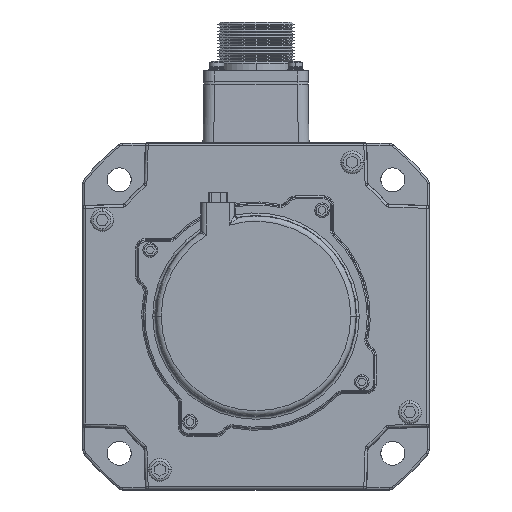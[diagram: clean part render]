
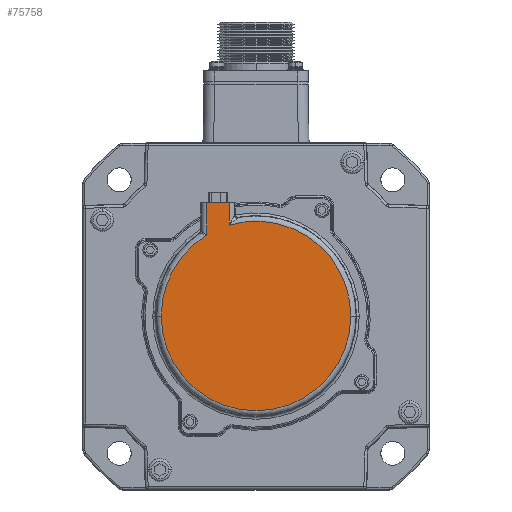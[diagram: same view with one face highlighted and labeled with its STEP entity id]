
A CAD part, top view. The second image highlights one B-rep face of the part: STEP entity #75758.
In plain terms, the highlighted planar face has unit normal (0, 0, 1).
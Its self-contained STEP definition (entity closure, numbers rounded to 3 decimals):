
#2875 = ORIENTED_EDGE ( 'NONE', *, *, #34492, .T. ) ;
#14311 = DIRECTION ( 'NONE',  ( 1., 0., 0. ) ) ;
#15940 = VERTEX_POINT ( 'NONE', #43821 ) ;
#15966 = CARTESIAN_POINT ( 'NONE',  ( -27.4, -13.773, -44.037 ) ) ;
#18535 = CIRCLE ( 'NONE', #61138, 35.528 ) ;
#21578 = FACE_OUTER_BOUND ( 'NONE', #76705, .T. ) ;
#21938 = EDGE_CURVE ( 'NONE', #70046, #30389, #23471, .T. ) ;
#23471 = LINE ( 'NONE', #91979, #123984 ) ;
#29549 = VERTEX_POINT ( 'NONE', #29958 ) ;
#29958 = CARTESIAN_POINT ( 'NONE',  ( 26.656, -56.273, -44.037 ) ) ;
#30389 = VERTEX_POINT ( 'NONE', #36964 ) ;
#31032 = EDGE_CURVE ( 'NONE', #102379, #36932, #60397, .T. ) ;
#32668 = DIRECTION ( 'NONE',  ( 0., 0., 1. ) ) ;
#34492 = EDGE_CURVE ( 'NONE', #29549, #70046, #18535, .T. ) ;
#34733 = DIRECTION ( 'NONE',  ( 0., 0., 1. ) ) ;
#35232 = VECTOR ( 'NONE', #14311, 1000. ) ;
#35277 = DIRECTION ( 'NONE',  ( 0., 0., 1. ) ) ;
#36932 = VERTEX_POINT ( 'NONE', #48047 ) ;
#36964 = CARTESIAN_POINT ( 'NONE',  ( -18.844, -13.773, -44.037 ) ) ;
#37308 = DIRECTION ( 'NONE',  ( 0., 0., 1. ) ) ;
#37568 = VECTOR ( 'NONE', #81703, 1000. ) ;
#39881 = CARTESIAN_POINT ( 'NONE',  ( -18.844, -22.174, -44.037 ) ) ;
#43821 = CARTESIAN_POINT ( 'NONE',  ( -44.4, -56.273, -44.037 ) ) ;
#48047 = CARTESIAN_POINT ( 'NONE',  ( -27.4, -25.959, -44.037 ) ) ;
#54398 = CARTESIAN_POINT ( 'NONE',  ( -8.872, -56.273, -44.037 ) ) ;
#60397 = LINE ( 'NONE', #81290, #37568 ) ;
#61138 = AXIS2_PLACEMENT_3D ( 'NONE', #92993, #34733, #102837 ) ;
#61932 = ORIENTED_EDGE ( 'NONE', *, *, #63268, .F. ) ;
#62340 = AXIS2_PLACEMENT_3D ( 'NONE', #54398, #35277, #103353 ) ;
#63268 = EDGE_CURVE ( 'NONE', #102379, #30389, #109813, .T. ) ;
#63435 = ORIENTED_EDGE ( 'NONE', *, *, #21938, .T. ) ;
#68869 = ORIENTED_EDGE ( 'NONE', *, *, #98476, .T. ) ;
#70046 = VERTEX_POINT ( 'NONE', #39881 ) ;
#72578 = CARTESIAN_POINT ( 'NONE',  ( -16.872, -13.773, -44.037 ) ) ;
#75758 = ADVANCED_FACE ( 'NONE', ( #21578 ), #93536, .T. ) ;
#76705 = EDGE_LOOP ( 'NONE', ( #61932, #119893, #84600, #68869, #2875, #63435 ) ) ;
#77984 = CIRCLE ( 'NONE', #91908, 35.528 ) ;
#81290 = CARTESIAN_POINT ( 'NONE',  ( -27.4, -24.873, -44.037 ) ) ;
#81703 = DIRECTION ( 'NONE',  ( 0., -1., 0. ) ) ;
#84600 = ORIENTED_EDGE ( 'NONE', *, *, #109412, .T. ) ;
#90891 = CARTESIAN_POINT ( 'NONE',  ( -8.872, -56.273, -44.037 ) ) ;
#91908 = AXIS2_PLACEMENT_3D ( 'NONE', #90891, #32668, #100714 ) ;
#91979 = CARTESIAN_POINT ( 'NONE',  ( -18.844, -13.773, -44.037 ) ) ;
#92392 = DIRECTION ( 'NONE',  ( 0., 1., 0. ) ) ;
#92993 = CARTESIAN_POINT ( 'NONE',  ( -8.872, -56.273, -44.037 ) ) ;
#93536 = PLANE ( 'NONE',  #62340 ) ;
#95568 = CARTESIAN_POINT ( 'NONE',  ( -8.872, -56.273, -44.037 ) ) ;
#98476 = EDGE_CURVE ( 'NONE', #15940, #29549, #77984, .T. ) ;
#100714 = DIRECTION ( 'NONE',  ( 1., 0., 0. ) ) ;
#102379 = VERTEX_POINT ( 'NONE', #15966 ) ;
#102837 = DIRECTION ( 'NONE',  ( 1., 0., 0. ) ) ;
#103353 = DIRECTION ( 'NONE',  ( 1., 0., 0. ) ) ;
#103471 = CIRCLE ( 'NONE', #114335, 35.528 ) ;
#105373 = DIRECTION ( 'NONE',  ( 1., 0., 0. ) ) ;
#109412 = EDGE_CURVE ( 'NONE', #36932, #15940, #103471, .T. ) ;
#109813 = LINE ( 'NONE', #72578, #35232 ) ;
#114335 = AXIS2_PLACEMENT_3D ( 'NONE', #95568, #37308, #105373 ) ;
#119893 = ORIENTED_EDGE ( 'NONE', *, *, #31032, .T. ) ;
#123984 = VECTOR ( 'NONE', #92392, 1000. ) ;
